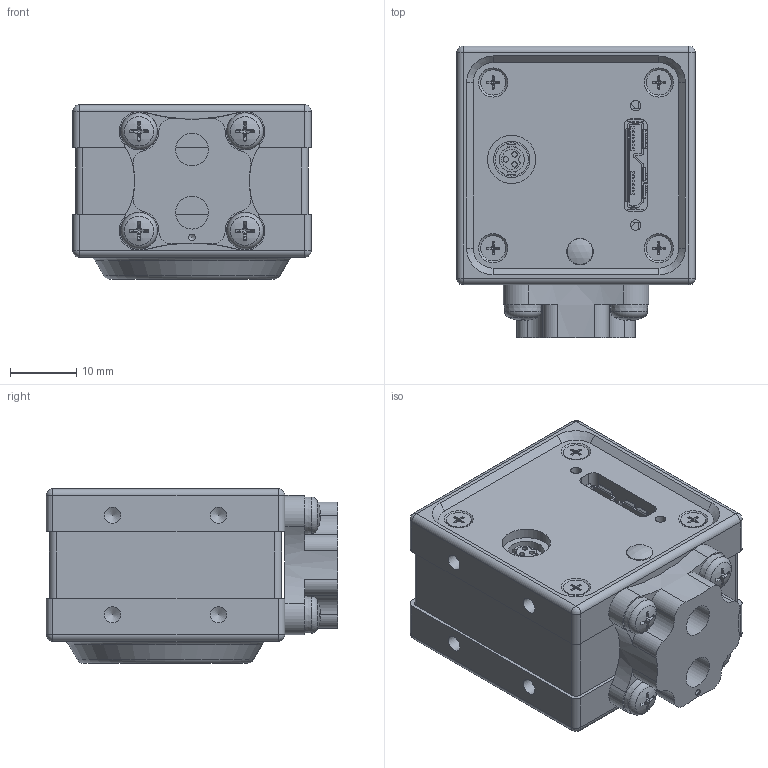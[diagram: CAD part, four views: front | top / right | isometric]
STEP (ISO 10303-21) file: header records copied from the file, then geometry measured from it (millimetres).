
FILE_DESCRIPTION(/* description */ (''),/* implementation_level */ '2;1');
FILE_NAME(/* name */ 'D:\1_Konstruktion\1_KUNDEN\TIS\194-15_MC36-Camera_AF-Raytrix-Board\Dumme-Modelle (Step)\194-15-1-00-00_MC36-42MP-AF-Cam_Kunden-Modell.stp',/* time_stamp */ '2017-01-09T16:16:17+01:00',/* author */ ('khw'),/* organization */ (''),/* preprocessor_version */ 'ST-DEVELOPER v15.2',/* originating_system */ 'Autodesk Inventor 2014',/* authorisation */ '');
FILE_SCHEMA (('AUTOMOTIVE_DESIGN { 1 0 10303 214 3 1 1 }'));
Length unit declared in the file: millimetre
Products named in the file (4): 194-15-1-00-00_ZB MC36-42MP-AF-Cam; 154-13-1-00-03_Tripod Adapter; ISO 7045 - M3 x 6; 194-15-1-00-00_MC36-42MP-AF-Cam_Kunden-Modell
Assembly tree (6 placements, depth 2):
  194-15-1-00-00_MC36-42MP-AF-Cam_Kunden-Modell
    194-15-1-00-00_ZB MC36-42MP-AF-Cam
    154-13-1-00-03_Tripod Adapter
    ISO 7045 - M3 x 6  x4
Bounding box: 36 x 44 x 26.3 mm (x, y, z)
Volume: 19540.6 mm3; surface area: 16479.5 mm2
Topology: 8 solids, 8 shells, 986 faces, 2641 edges, 1722 vertices
Faces by surface type: plane 486, cylinder 303, cone 133, torus 47, sphere 17
Full cylindrical faces by diameter (mm): 0.7 x1, 0.8 x3, 1 x1, 1.567 x6, 1.755 x4, 2 x4, 2.3 x4, 2.459 x16, 2.729 x4, 3 x5, 3.4 x4, 3.5 x2, 3.8 x5, 3.9 x1, 4 x3, 4.8 x1, 4.917 x1, 4.978 x1, 5 x6, 5.5 x1, 7 x1, 7.3 x1, 8 x1, 10 x1, 25 x1
Entity records: 28530 total; most frequent: CARTESIAN_POINT 5598, DIRECTION 4608, ORIENTED_EDGE 4442, EDGE_CURVE 2221, AXIS2_PLACEMENT_3D 1630, VERTEX_POINT 1520, LINE 1348, VECTOR 1348
